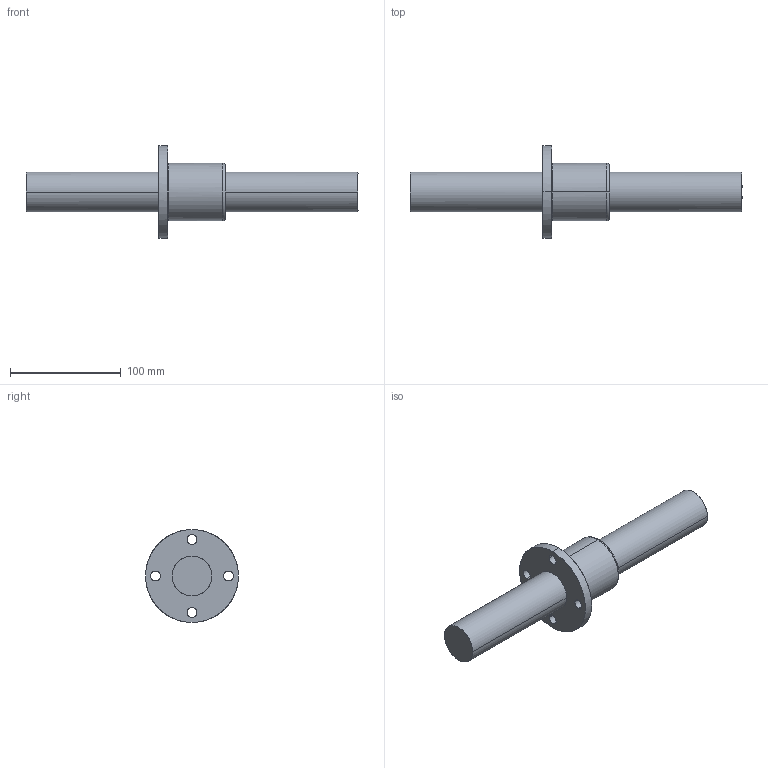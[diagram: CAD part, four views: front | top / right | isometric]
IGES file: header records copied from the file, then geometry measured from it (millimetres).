
Global section: file name: No Iges File Name specified; native system: AutoDesk Inventor R10; preprocessor: AutoDesk Inventor Iges Exporter R10; author: No Author specified; organization: No Organization specified; date: 20101224.144817; units: millimetre
Bounding box: 300 x 84 x 84 mm (x, y, z)
Surface area: 62623.5 mm2 (no closed solid volume)
Topology: 0 solids, 0 shells, 25 faces, 184 edges, 184 vertices
Faces by surface type: bspline 25
